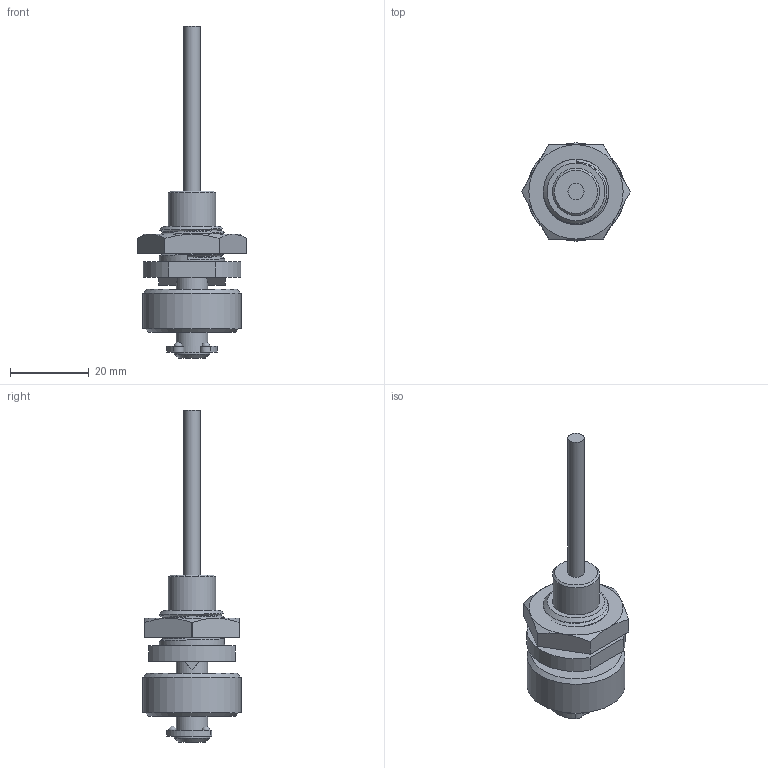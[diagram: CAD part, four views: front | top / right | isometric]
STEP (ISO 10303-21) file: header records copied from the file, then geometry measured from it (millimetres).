
FILE_DESCRIPTION(/* description */ ('Katalogmodell Elobau'),/* implementation_level */ '2;1');
FILE_NAME(/* name */ '2011_0_A.stp',/* time_stamp */ '2014-10-08T10:55:23+02:00',/* author */ ('Elobau GmbH & Co. KG'),/* organization */ ('Elobau GmbH & Co. KG'),/* preprocessor_version */ 'ST-DEVELOPER v15',/* originating_system */ 'SIEMENS PLM Software NX 8.5',/* authorisation */ '');
FILE_SCHEMA (('AUTOMOTIVE_DESIGN { 1 0 10303 214 3 1 1 1 }'));
Length unit declared in the file: millimetre
Products named in the file (1): 2011.0_A
Bounding box: 27.71 x 25 x 84.5 mm (x, y, z)
Volume: 14147 mm3; surface area: 6634.5 mm2
Topology: 3 solids, 3 shells, 67 faces, 163 edges, 104 vertices
Faces by surface type: plane 30, cylinder 21, cone 11, sphere 3, bspline 2
Full cylindrical faces by diameter (mm): 4.1 x1, 8 x1, 9 x1, 12 x1, 16.66 x5, 25 x1
Entity records: 3660 total; most frequent: CARTESIAN_POINT 2272, DIRECTION 281, ORIENTED_EDGE 246, EDGE_CURVE 123, AXIS2_PLACEMENT_3D 118, VERTEX_POINT 83, EDGE_LOOP 78, ADVANCED_FACE 62
